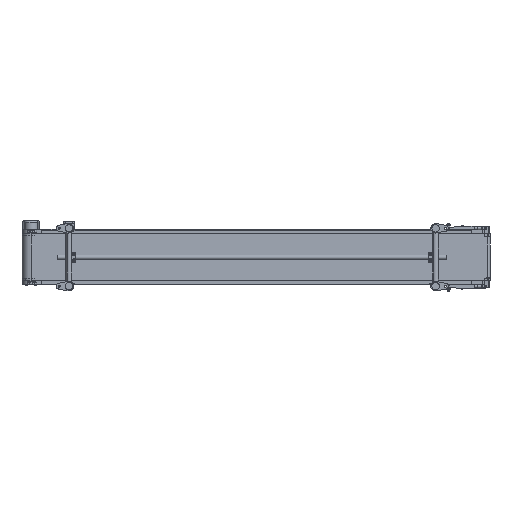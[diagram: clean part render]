
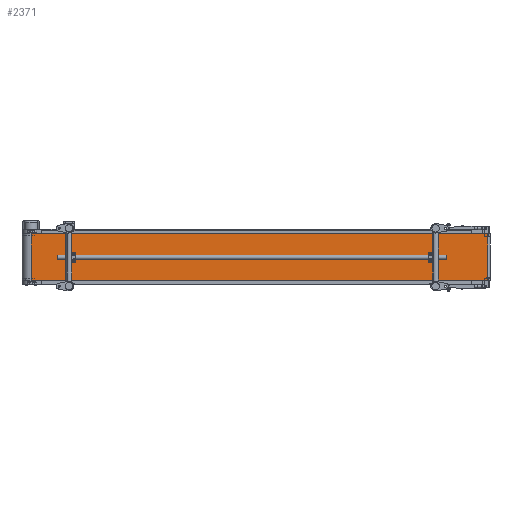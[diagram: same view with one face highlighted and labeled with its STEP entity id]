
A CAD part, front view. The second image highlights one B-rep face of the part: STEP entity #2371.
In plain terms, the highlighted planar face has unit normal (0.03, -1, 0).
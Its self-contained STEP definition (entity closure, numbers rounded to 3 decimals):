
#2371=ADVANCED_FACE('',(#10808),#10807,.F.);
#10807=PLANE('',#19109);
#10808=FACE_OUTER_BOUND('',#19110,.T.);
#19106=CARTESIAN_POINT('',(2994.638,-26.095,-160.));
#19107=DIRECTION('',(-0.03,1.,0.));
#19108=DIRECTION('',(-1.,-0.03,0.));
#19109=AXIS2_PLACEMENT_3D('',#19106,#19107,#19108);
#19110=EDGE_LOOP('',(#25159,#25160,#25161,#25162));
#25159=ORIENTED_EDGE('',*,*,#29039,.T.);
#25160=ORIENTED_EDGE('',*,*,#29046,.F.);
#25161=ORIENTED_EDGE('',*,*,#29033,.F.);
#25162=ORIENTED_EDGE('',*,*,#29047,.T.);
#29033=EDGE_CURVE('',#42559,#42544,#42566,.T.);
#29039=EDGE_CURVE('',#42608,#42600,#42609,.T.);
#29046=EDGE_CURVE('',#42544,#42600,#42656,.T.);
#29047=EDGE_CURVE('',#42559,#42608,#42662,.T.);
#42544=VERTEX_POINT('',#56719);
#42559=VERTEX_POINT('',#56729);
#42566=LINE('',#56734,#56735);
#42600=VERTEX_POINT('',#56755);
#42608=VERTEX_POINT('',#56761);
#42609=LINE('',#56762,#56763);
#42656=LINE('',#56791,#56792);
#42662=LINE('',#56794,#56795);
#56719=CARTESIAN_POINT('',(2984.642,-26.393,150.));
#56729=CARTESIAN_POINT('',(59.243,-113.824,150.));
#56734=CARTESIAN_POINT('',(59.243,-113.824,150.));
#56735=VECTOR('',#56736,2926.705);
#56736=DIRECTION('',(1.,0.03,0.));
#56755=CARTESIAN_POINT('',(2984.642,-26.393,-150.));
#56761=CARTESIAN_POINT('',(59.243,-113.824,-150.));
#56762=CARTESIAN_POINT('',(59.243,-113.824,-150.));
#56763=VECTOR('',#56764,2926.705);
#56764=DIRECTION('',(1.,0.03,0.));
#56791=CARTESIAN_POINT('',(2984.642,-26.393,150.));
#56792=VECTOR('',#56793,300.);
#56793=DIRECTION('',(0.,0.,-1.));
#56794=CARTESIAN_POINT('',(59.243,-113.824,150.));
#56795=VECTOR('',#56796,300.);
#56796=DIRECTION('',(0.,0.,-1.));
